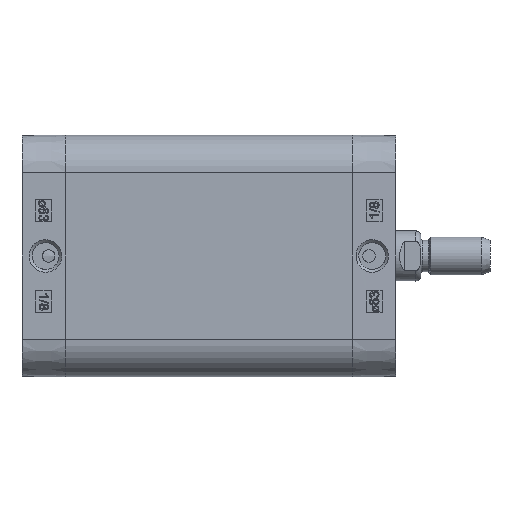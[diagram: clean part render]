
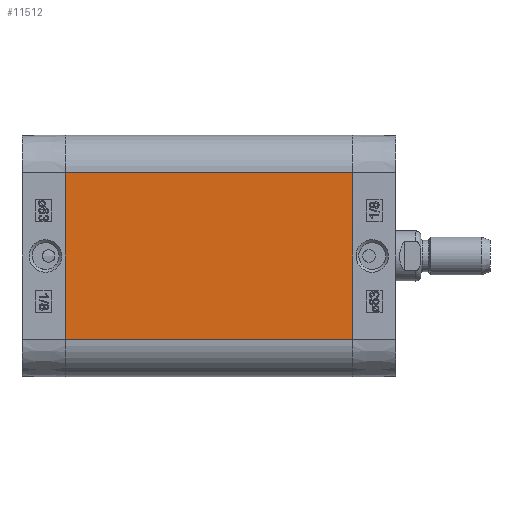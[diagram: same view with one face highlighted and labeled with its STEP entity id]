
A CAD part, left-side view. The second image highlights one B-rep face of the part: STEP entity #11512.
In plain terms, the highlighted planar face has unit normal (-1, 0, 0).
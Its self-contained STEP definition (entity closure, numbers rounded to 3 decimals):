
#5842=CARTESIAN_POINT('',(-38.5,-91.5,26.5));
#5843=VERTEX_POINT('',#5842);
#5850=CARTESIAN_POINT('',(-38.5,-91.5,-26.5));
#5851=VERTEX_POINT('',#5850);
#5852=CARTESIAN_POINT('',(-38.5,-91.5,-26.5));
#5853=DIRECTION('',(0.0,0.0,1.0));
#5854=VECTOR('',#5853,53.0);
#5855=LINE('',#5852,#5854);
#5856=EDGE_CURVE('',#5851,#5843,#5855,.T.);
#11470=CARTESIAN_POINT('',(-38.5,0.0,-26.5));
#11471=VERTEX_POINT('',#11470);
#11472=CARTESIAN_POINT('',(-38.5,0.0,-26.5));
#11473=DIRECTION('',(0.0,-1.0,0.0));
#11474=VECTOR('',#11473,91.5);
#11475=LINE('',#11472,#11474);
#11476=EDGE_CURVE('',#11471,#5851,#11475,.T.);
#11489=CARTESIAN_POINT('',(-38.5,0.0,-26.5));
#11490=DIRECTION('',(-1.0,0.0,0.0));
#11491=DIRECTION('',(0.0,0.0,1.0));
#11492=AXIS2_PLACEMENT_3D('',#11489,#11490,#11491);
#11493=PLANE('',#11492);
#11494=ORIENTED_EDGE('',*,*,#5856,.T.);
#11495=CARTESIAN_POINT('',(-38.5,0.0,26.5));
#11496=VERTEX_POINT('',#11495);
#11497=CARTESIAN_POINT('',(-38.5,0.0,26.5));
#11498=DIRECTION('',(0.0,-1.0,0.0));
#11499=VECTOR('',#11498,91.5);
#11500=LINE('',#11497,#11499);
#11501=EDGE_CURVE('',#11496,#5843,#11500,.T.);
#11502=ORIENTED_EDGE('',*,*,#11501,.F.);
#11503=CARTESIAN_POINT('',(-38.5,0.0,-26.5));
#11504=DIRECTION('',(0.0,0.0,1.0));
#11505=VECTOR('',#11504,53.0);
#11506=LINE('',#11503,#11505);
#11507=EDGE_CURVE('',#11471,#11496,#11506,.T.);
#11508=ORIENTED_EDGE('',*,*,#11507,.F.);
#11509=ORIENTED_EDGE('',*,*,#11476,.T.);
#11510=EDGE_LOOP('',(#11494,#11502,#11508,#11509));
#11511=FACE_OUTER_BOUND('',#11510,.T.);
#11512=ADVANCED_FACE('',(#11511),#11493,.T.);
